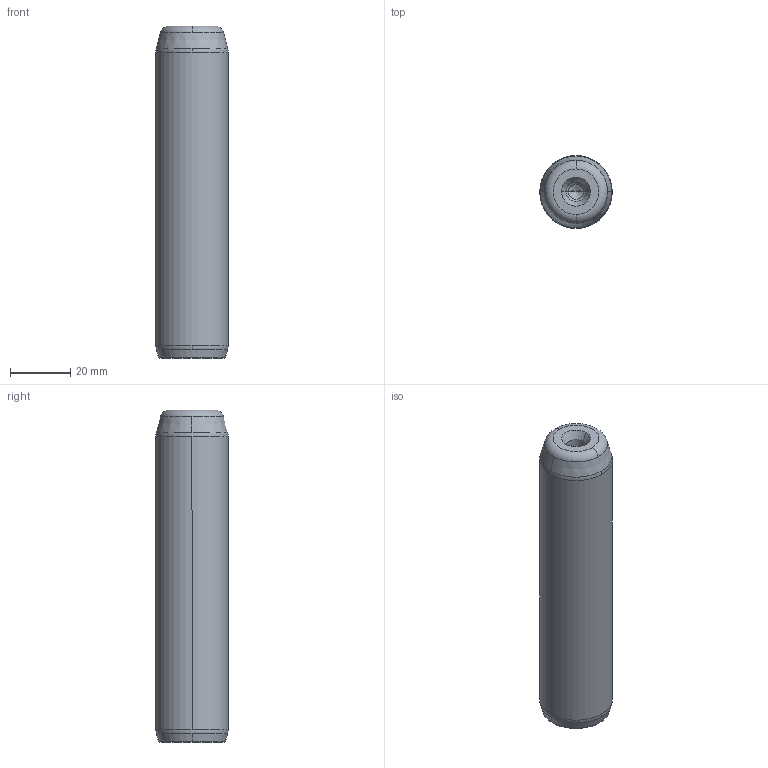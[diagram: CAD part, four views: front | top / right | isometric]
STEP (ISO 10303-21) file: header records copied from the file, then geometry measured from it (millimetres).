
FILE_DESCRIPTION((''),'2;1');
FILE_NAME('P10_024_110.stp','2008-12-23T14:34:13',(''),(''),'Mechanical Desktop 2009','Mechanical Desktop 2009',', , ');
FILE_SCHEMA(('CONFIG_CONTROL_DESIGN'));
Length unit declared in the file: millimetre
Products named in the file (5): Product; ProductAA; blmdl1; ProductA; blmdl1A
Assembly tree (2 placements, depth 3):
  Product
    ProductAA
      blmdl1
  ProductA
  blmdl1A
Bounding box: 24 x 24 x 110 mm (x, y, z)
Volume: 48429.6 mm3; surface area: 9230.6 mm2
Topology: 1 solids, 1 shells, 26 faces, 66 edges, 41 vertices
Faces by surface type: cone 10, torus 8, cylinder 6, plane 2
Entity records: 1012 total; most frequent: DIRECTION 170, CARTESIAN_POINT 134, ORIENTED_EDGE 128, AXIS2_PLACEMENT_3D 77, EDGE_CURVE 64, CIRCLE 48, VERTEX_POINT 41, EDGE_LOOP 27
